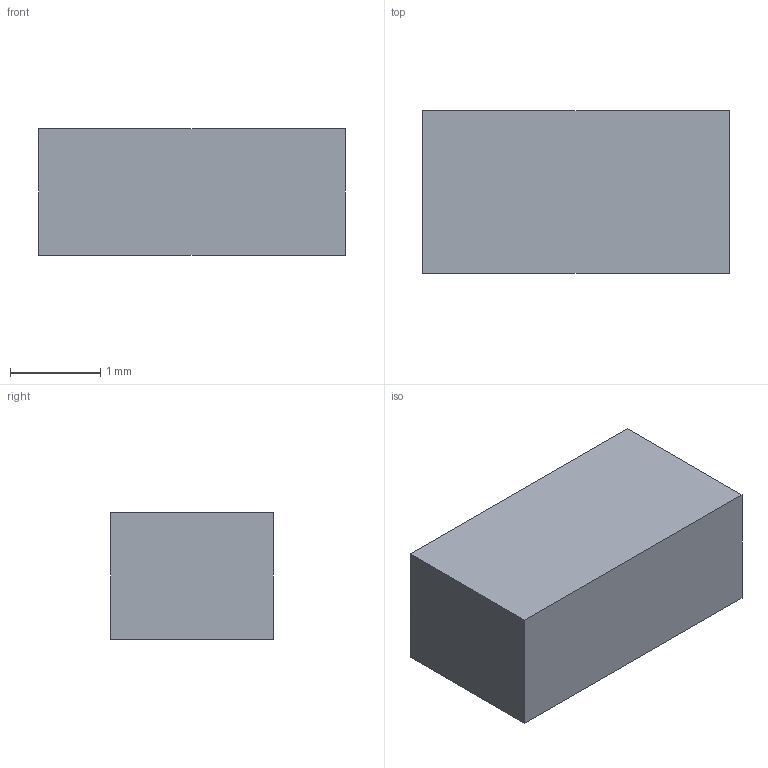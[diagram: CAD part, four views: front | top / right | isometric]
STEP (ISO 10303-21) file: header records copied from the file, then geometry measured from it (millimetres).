
FILE_DESCRIPTION(('Open CASCADE Model'),'2;1');
FILE_NAME('Open CASCADE Shape Model','2026-09-17T14:57:39',('Author'),( 'Open CASCADE'),'Open CASCADE STEP processor 7.8','Open CASCADE 7.8' ,'Unknown');
FILE_SCHEMA(('AUTOMOTIVE_DESIGN { 1 0 10303 214 1 1 1 1 }'));
Length unit declared in the file: millimetre
Products named in the file (1): Open CASCADE STEP translator 7.8 1
Bounding box: 3.4 x 1.8 x 1.4 mm (x, y, z)
Volume: 8.6 mm3; surface area: 26.8 mm2
Topology: 1 solids, 1 shells, 6 faces, 12 edges, 8 vertices
Faces by surface type: plane 6
Entity records: 322 total; most frequent: CARTESIAN_POINT 51, DIRECTION 50, LINE 36, VECTOR 36, ORIENTED_EDGE 24, PCURVE 24, DEFINITIONAL_REPRESENTATION 24, EDGE_CURVE 12
